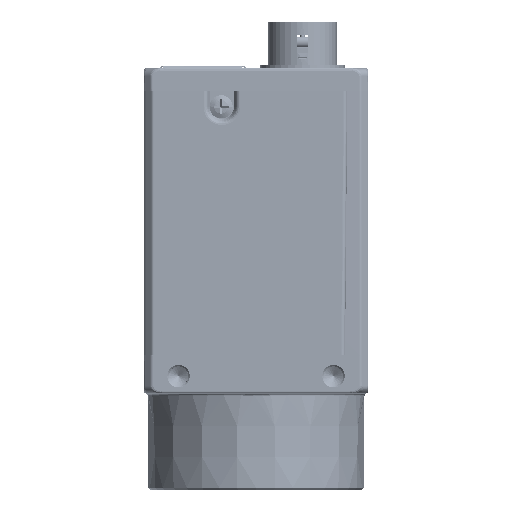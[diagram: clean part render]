
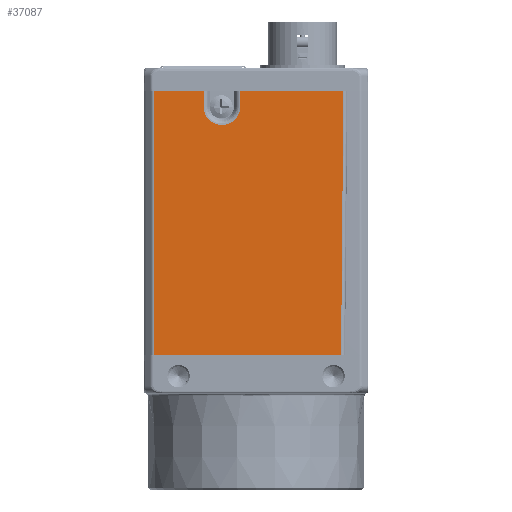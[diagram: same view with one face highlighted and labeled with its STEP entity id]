
A CAD part, left-side view. The second image highlights one B-rep face of the part: STEP entity #37087.
In plain terms, the highlighted planar face has unit normal (-1, 0, 0).
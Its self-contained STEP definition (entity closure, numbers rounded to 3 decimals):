
#34959=DIRECTION('',(0.,0.,-1.));
#34960=VECTOR('',#34959,34.);
#34961=CARTESIAN_POINT('',(-14.5,13.193,33.5));
#34962=LINE('',#34961,#34960);
#34967=DIRECTION('',(0.,-0.009,1.));
#34968=VECTOR('',#34967,34.001);
#34969=CARTESIAN_POINT('',(-14.5,-10.98,
-0.5));
#34970=LINE('',#34969,#34968);
#34971=CARTESIAN_POINT('',(-14.5,4.4,31.5));
#34972=DIRECTION('',(1.,0.,0.));
#34973=DIRECTION('',(0.,-1.,0.));
#34974=AXIS2_PLACEMENT_3D('',#34971,#34972,#34973);
#35144=DIRECTION('',(0.,1.,0.));
#35145=VECTOR('',#35144,13.318);
#35146=CARTESIAN_POINT('',(-14.5,-11.277,33.5));
#35147=LINE('',#35146,#35145);
#35166=DIRECTION('',(0.,0.,-1.));
#35167=VECTOR('',#35166,2.);
#35168=CARTESIAN_POINT('',(-14.5,2.042,33.5));
#35169=LINE('',#35168,#35167);
#35189=DIRECTION('',(0.,0.,1.));
#35190=VECTOR('',#35189,2.);
#35191=CARTESIAN_POINT('',(-14.5,6.758,31.5));
#35192=LINE('',#35191,#35190);
#35215=DIRECTION('',(0.,1.,0.));
#35216=VECTOR('',#35215,6.435);
#35217=CARTESIAN_POINT('',(-14.5,6.758,33.5));
#35218=LINE('',#35217,#35216);
#35611=DIRECTION('',(0.,1.,0.));
#35612=VECTOR('',#35611,24.173);
#35613=CARTESIAN_POINT('',(-14.5,-10.98,
-0.5));
#35614=LINE('',#35613,#35612);
#36175=CARTESIAN_POINT('',(-14.5,13.193,-0.5));
#36176=VERTEX_POINT('',#36175);
#36177=CARTESIAN_POINT('',(-14.5,13.193,33.5));
#36178=VERTEX_POINT('',#36177);
#36179=CARTESIAN_POINT('',(-14.5,-10.98,
-0.5));
#36180=CARTESIAN_POINT('',(-14.5,-11.277,33.5));
#36181=VERTEX_POINT('',#36179);
#36182=VERTEX_POINT('',#36180);
#36183=CARTESIAN_POINT('',(-14.5,6.758,33.5));
#36184=VERTEX_POINT('',#36183);
#36185=CARTESIAN_POINT('',(-14.5,6.758,31.5));
#36186=VERTEX_POINT('',#36185);
#36187=CARTESIAN_POINT('',(-14.5,2.042,31.5));
#36188=VERTEX_POINT('',#36187);
#36189=CARTESIAN_POINT('',(-14.5,2.042,33.5));
#36190=VERTEX_POINT('',#36189);
#37065=CARTESIAN_POINT('',(-14.5,0.958,16.5));
#37066=DIRECTION('',(1.,0.,0.));
#37067=DIRECTION('',(0.,-1.,0.));
#37068=AXIS2_PLACEMENT_3D('',#37065,#37066,#37067);
#37069=PLANE('',#37068);
#37071=ORIENTED_EDGE('',*,*,#37070,.F.);
#37073=ORIENTED_EDGE('',*,*,#37072,.T.);
#37074=ORIENTED_EDGE('',*,*,#37056,.F.);
#37076=ORIENTED_EDGE('',*,*,#37075,.F.);
#37078=ORIENTED_EDGE('',*,*,#37077,.F.);
#37080=ORIENTED_EDGE('',*,*,#37079,.F.);
#37082=ORIENTED_EDGE('',*,*,#37081,.F.);
#37084=ORIENTED_EDGE('',*,*,#37083,.F.);
#37085=EDGE_LOOP('',(#37071,#37073,#37074,#37076,#37078,#37080,#37082,#37084));
#37086=FACE_OUTER_BOUND('',#37085,.F.);
#37087=ADVANCED_FACE('',(#37086),#37069,.F.);
#34975=CIRCLE('',#34974,2.358);
#37056=EDGE_CURVE('',#36178,#36176,#34962,.T.);
#37070=EDGE_CURVE('',#36181,#36182,#34970,.T.);
#37072=EDGE_CURVE('',#36181,#36176,#35614,.T.);
#37075=EDGE_CURVE('',#36184,#36178,#35218,.T.);
#37077=EDGE_CURVE('',#36186,#36184,#35192,.T.);
#37079=EDGE_CURVE('',#36188,#36186,#34975,.T.);
#37081=EDGE_CURVE('',#36190,#36188,#35169,.T.);
#37083=EDGE_CURVE('',#36182,#36190,#35147,.T.);
